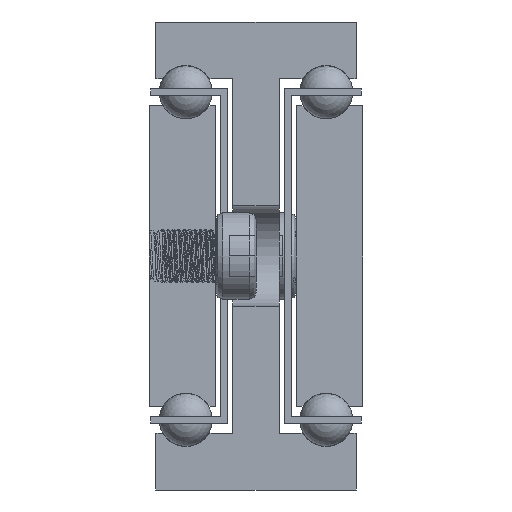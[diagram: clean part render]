
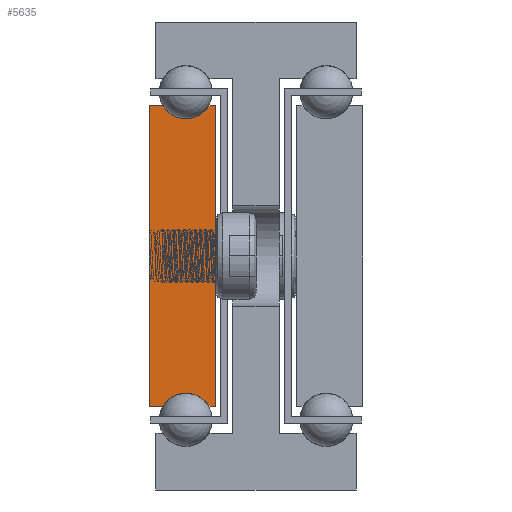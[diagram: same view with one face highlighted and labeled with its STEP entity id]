
A CAD part, front view. The second image highlights one B-rep face of the part: STEP entity #5635.
In plain terms, the highlighted planar face has unit normal (0, -1, 0).
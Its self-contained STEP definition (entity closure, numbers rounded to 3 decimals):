
#869=CIRCLE('',#6035,4.);
#871=CIRCLE('',#6041,4.);
#1289=FACE_OUTER_BOUND('',#1653,.T.);
#1653=EDGE_LOOP('',(#4454,#4455,#4456,#4457,#4458,#4459,#4460,#4461));
#2192=LINE('',#95885,#2404);
#2195=LINE('',#95891,#2407);
#2199=LINE('',#95903,#2411);
#2202=LINE('',#95909,#2414);
#2205=LINE('',#95915,#2417);
#2209=LINE('',#95925,#2421);
#2404=VECTOR('',#6714,1.);
#2407=VECTOR('',#6719,1.);
#2411=VECTOR('',#6731,1.);
#2414=VECTOR('',#6736,1.);
#2417=VECTOR('',#6741,1.);
#2421=VECTOR('',#6753,1.);
#2704=VERTEX_POINT('',#95882);
#2705=VERTEX_POINT('',#95884);
#2707=VERTEX_POINT('',#95890);
#2709=VERTEX_POINT('',#95896);
#2711=VERTEX_POINT('',#95902);
#2713=VERTEX_POINT('',#95908);
#2715=VERTEX_POINT('',#95914);
#2717=VERTEX_POINT('',#95920);
#3414=EDGE_CURVE('',#2705,#2704,#2192,.T.);
#3417=EDGE_CURVE('',#2707,#2705,#2195,.T.);
#3420=EDGE_CURVE('',#2709,#2707,#869,.T.);
#3423=EDGE_CURVE('',#2711,#2709,#2199,.T.);
#3426=EDGE_CURVE('',#2713,#2711,#2202,.T.);
#3429=EDGE_CURVE('',#2715,#2713,#2205,.T.);
#3432=EDGE_CURVE('',#2717,#2715,#871,.T.);
#3435=EDGE_CURVE('',#2704,#2717,#2209,.T.);
#4454=ORIENTED_EDGE('',*,*,#3435,.T.);
#4455=ORIENTED_EDGE('',*,*,#3432,.T.);
#4456=ORIENTED_EDGE('',*,*,#3429,.T.);
#4457=ORIENTED_EDGE('',*,*,#3426,.T.);
#4458=ORIENTED_EDGE('',*,*,#3423,.T.);
#4459=ORIENTED_EDGE('',*,*,#3420,.T.);
#4460=ORIENTED_EDGE('',*,*,#3417,.T.);
#4461=ORIENTED_EDGE('',*,*,#3414,.T.);
#5489=PLANE('',#6044);
#5635=ADVANCED_FACE('',(#1289),#5489,.T.);
#6035=AXIS2_PLACEMENT_3D('',#95897,#6725,#6726);
#6041=AXIS2_PLACEMENT_3D('',#95921,#6747,#6748);
#6044=AXIS2_PLACEMENT_3D('',#95927,#6756,#6757);
#6714=DIRECTION('',(0.,0.,-1.));
#6719=DIRECTION('',(-1.,0.,0.));
#6725=DIRECTION('center_axis',(0.,1.,0.));
#6726=DIRECTION('ref_axis',(-0.866,0.,-0.5));
#6731=DIRECTION('',(-1.,0.,0.));
#6736=DIRECTION('',(0.,0.,1.));
#6741=DIRECTION('',(1.,0.,0.));
#6747=DIRECTION('center_axis',(0.,1.,0.));
#6748=DIRECTION('ref_axis',(0.866,0.,0.5));
#6753=DIRECTION('',(1.,0.,0.));
#6756=DIRECTION('center_axis',(0.,-1.,0.));
#6757=DIRECTION('ref_axis',(1.,0.,0.));
#95882=CARTESIAN_POINT('',(-1448.465,-669.108,-57.5));
#95884=CARTESIAN_POINT('',(-1448.465,-669.108,-12.5));
#95885=CARTESIAN_POINT('',(-1448.465,-669.108,-57.5));
#95890=CARTESIAN_POINT('',(-1446.429,-669.108,-12.5));
#95891=CARTESIAN_POINT('',(-1448.465,-669.108,-12.5));
#95896=CARTESIAN_POINT('',(-1439.501,-669.108,-12.5));
#95897=CARTESIAN_POINT('Origin',(-1442.965,-669.108,-10.5));
#95902=CARTESIAN_POINT('',(-1438.465,-669.108,-12.5));
#95903=CARTESIAN_POINT('',(-1439.501,-669.108,-12.5));
#95908=CARTESIAN_POINT('',(-1438.465,-669.108,-57.5));
#95909=CARTESIAN_POINT('',(-1438.465,-669.108,-12.5));
#95914=CARTESIAN_POINT('',(-1439.501,-669.108,-57.5));
#95915=CARTESIAN_POINT('',(-1438.465,-669.108,-57.5));
#95920=CARTESIAN_POINT('',(-1446.429,-669.108,-57.5));
#95921=CARTESIAN_POINT('Origin',(-1442.965,-669.108,-59.5));
#95925=CARTESIAN_POINT('',(-1446.429,-669.108,-57.5));
#95927=CARTESIAN_POINT('Origin',(-1443.471,-669.108,-35.));
